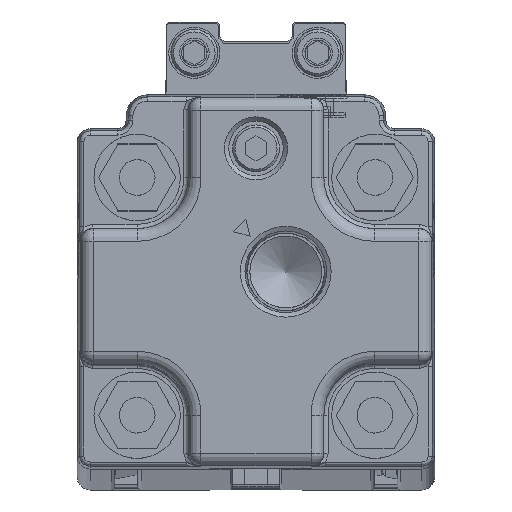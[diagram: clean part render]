
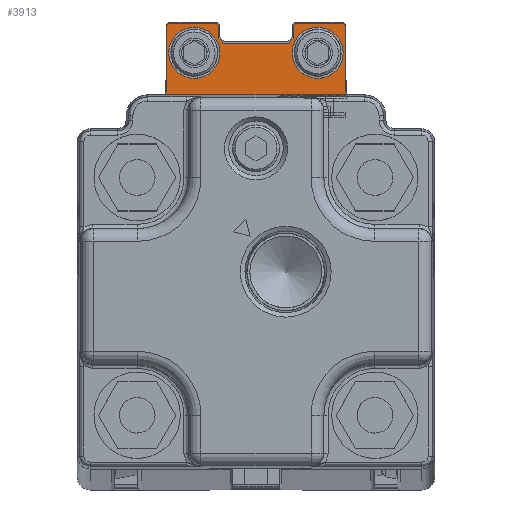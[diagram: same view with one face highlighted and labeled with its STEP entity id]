
A CAD part, top view. The second image highlights one B-rep face of the part: STEP entity #3913.
In plain terms, the highlighted planar face has unit normal (0, 0, 1).
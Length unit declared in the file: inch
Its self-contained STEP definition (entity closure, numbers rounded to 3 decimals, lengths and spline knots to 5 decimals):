
#234 = DIRECTION ( 'NONE',  ( 0.707, 0.707, 0. ) ) ;
#361 = ORIENTED_EDGE ( 'NONE', *, *, #2216, .T. ) ;
#495 = LINE ( 'NONE', #2139, #12249 ) ;
#590 = CARTESIAN_POINT ( 'NONE',  ( -0.17126, 1.10709, 2.22441 ) ) ;
#708 = ORIENTED_EDGE ( 'NONE', *, *, #12825, .F. ) ;
#823 = CARTESIAN_POINT ( 'NONE',  ( 0.43307, 1.11693, 2.22441 ) ) ;
#904 = VECTOR ( 'NONE', #17777, 39.37008 ) ;
#1033 = ORIENTED_EDGE ( 'NONE', *, *, #18305, .T. ) ;
#1280 = EDGE_CURVE ( 'NONE', #16223, #13581, #9446, .T. ) ;
#1484 = VERTEX_POINT ( 'NONE', #16175 ) ;
#1485 = CARTESIAN_POINT ( 'NONE',  ( 0.41339, 0.88071, 2.22441 ) ) ;
#1690 = EDGE_CURVE ( 'NONE', #24234, #10453, #11562, .T. ) ;
#1952 = ORIENTED_EDGE ( 'NONE', *, *, #2222, .F. ) ;
#2015 = DIRECTION ( 'NONE',  ( 0., 0., 1. ) ) ;
#2050 = ORIENTED_EDGE ( 'NONE', *, *, #15190, .T. ) ;
#2139 = CARTESIAN_POINT ( 'NONE',  ( 0.17126, 1.04409, 2.22441 ) ) ;
#2216 = EDGE_CURVE ( 'NONE', #12425, #13581, #5955, .T. ) ;
#2222 = EDGE_CURVE ( 'NONE', #7334, #6017, #495, .T. ) ;
#2424 = CARTESIAN_POINT ( 'NONE',  ( -0.41999, 0.70853, 2.22441 ) ) ;
#2541 = CARTESIAN_POINT ( 'NONE',  ( 0.41339, 1.10709, 2.22441 ) ) ;
#2727 = CARTESIAN_POINT ( 'NONE',  ( -0.40354, 1.11693, 2.22441 ) ) ;
#3183 = CARTESIAN_POINT ( 'NONE',  ( 0.43307, 0.70853, 2.22441 ) ) ;
#3516 = LINE ( 'NONE', #9489, #11490 ) ;
#3913 = ADVANCED_FACE ( 'NONE', ( #13079, #9265, #11170 ), #14763, .F. ) ;
#4042 = VERTEX_POINT ( 'NONE', #25047 ) ;
#4348 = AXIS2_PLACEMENT_3D ( 'NONE', #17380, #5833, #25166 ) ;
#4496 = VECTOR ( 'NONE', #11676, 39.37008 ) ;
#4628 = EDGE_CURVE ( 'NONE', #7951, #13893, #6526, .T. ) ;
#4873 = DIRECTION ( 'NONE',  ( -0.707, 0.707, 0. ) ) ;
#5736 = VECTOR ( 'NONE', #12347, 39.37008 ) ;
#5833 = DIRECTION ( 'NONE',  ( 0., 0., 1. ) ) ;
#5865 = DIRECTION ( 'NONE',  ( 0., -1., 0. ) ) ;
#5953 = ORIENTED_EDGE ( 'NONE', *, *, #7964, .T. ) ;
#5955 = LINE ( 'NONE', #19547, #904 ) ;
#6017 = VERTEX_POINT ( 'NONE', #16471 ) ;
#6227 = DIRECTION ( 'NONE',  ( -0.707, 0.707, 0. ) ) ;
#6507 = CARTESIAN_POINT ( 'NONE',  ( -0.41874, 0.7412, 2.22441 ) ) ;
#6526 = LINE ( 'NONE', #8688, #9043 ) ;
#6669 = DIRECTION ( 'NONE',  ( -1., 0., 0. ) ) ;
#7080 = DIRECTION ( 'NONE',  ( -0.038, 0.999, 0. ) ) ;
#7098 = DIRECTION ( 'NONE',  ( 1., 0., 0. ) ) ;
#7316 = EDGE_CURVE ( 'NONE', #4042, #16943, #24601, .T. ) ;
#7334 = VERTEX_POINT ( 'NONE', #7401 ) ;
#7401 = CARTESIAN_POINT ( 'NONE',  ( 0.15157, 1.02441, 2.22441 ) ) ;
#7777 = AXIS2_PLACEMENT_3D ( 'NONE', #3183, #19045, #12834 ) ;
#7951 = VERTEX_POINT ( 'NONE', #2541 ) ;
#7964 = EDGE_CURVE ( 'NONE', #4042, #9753, #8848, .T. ) ;
#8314 = ORIENTED_EDGE ( 'NONE', *, *, #10307, .F. ) ;
#8331 = ORIENTED_EDGE ( 'NONE', *, *, #19235, .F. ) ;
#8378 = LINE ( 'NONE', #23534, #14376 ) ;
#8688 = CARTESIAN_POINT ( 'NONE',  ( 0.40354, 1.11693, 2.22441 ) ) ;
#8848 = LINE ( 'NONE', #12307, #10958 ) ;
#8940 = DIRECTION ( 'NONE',  ( -1., 0., 0. ) ) ;
#9043 = VECTOR ( 'NONE', #4873, 39.37008 ) ;
#9046 = VECTOR ( 'NONE', #22348, 39.37008 ) ;
#9150 = ORIENTED_EDGE ( 'NONE', *, *, #1690, .F. ) ;
#9236 = EDGE_CURVE ( 'NONE', #13893, #11903, #14232, .T. ) ;
#9265 = FACE_BOUND ( 'NONE', #17329, .T. ) ;
#9446 = LINE ( 'NONE', #19101, #12571 ) ;
#9489 = CARTESIAN_POINT ( 'NONE',  ( -0.15157, 1.02441, 2.22441 ) ) ;
#9728 = CARTESIAN_POINT ( 'NONE',  ( 0.1811, 1.11693, 2.22441 ) ) ;
#9753 = VERTEX_POINT ( 'NONE', #1485 ) ;
#9876 = ORIENTED_EDGE ( 'NONE', *, *, #7316, .F. ) ;
#9951 = CARTESIAN_POINT ( 'NONE',  ( 0.40354, 1.11693, 2.22441 ) ) ;
#9962 = CARTESIAN_POINT ( 'NONE',  ( 0.1811, 1.11693, 2.22441 ) ) ;
#10020 = CARTESIAN_POINT ( 'NONE',  ( 0.28543, 0.97913, 2.22441 ) ) ;
#10307 = EDGE_CURVE ( 'NONE', #21950, #21950, #11474, .T. ) ;
#10333 = EDGE_LOOP ( 'NONE', ( #20914, #13153, #18415, #1033, #8331, #1952, #20221, #13612, #9150, #20227, #2050, #361, #17523, #708, #9876, #5953 ) ) ;
#10453 = VERTEX_POINT ( 'NONE', #18281 ) ;
#10613 = EDGE_CURVE ( 'NONE', #11900, #7334, #3516, .T. ) ;
#10812 = CARTESIAN_POINT ( 'NONE',  ( -0.16732, 0.97913, 2.22441 ) ) ;
#10935 = VERTEX_POINT ( 'NONE', #10812 ) ;
#10958 = VECTOR ( 'NONE', #7080, 39.37008 ) ;
#11107 = ORIENTED_EDGE ( 'NONE', *, *, #23808, .F. ) ;
#11170 = FACE_OUTER_BOUND ( 'NONE', #10333, .T. ) ;
#11474 = CIRCLE ( 'NONE', #13944, 0.11811 ) ;
#11490 = VECTOR ( 'NONE', #7098, 39.37008 ) ;
#11562 = LINE ( 'NONE', #15390, #23980 ) ;
#11676 = DIRECTION ( 'NONE',  ( 0., 1., 0. ) ) ;
#11900 = VERTEX_POINT ( 'NONE', #19398 ) ;
#11903 = VERTEX_POINT ( 'NONE', #9728 ) ;
#12119 = CARTESIAN_POINT ( 'NONE',  ( -0.41339, 0.88071, 2.22441 ) ) ;
#12249 = VECTOR ( 'NONE', #234, 39.37008 ) ;
#12307 = CARTESIAN_POINT ( 'NONE',  ( 0.42001, 0.70803, 2.22441 ) ) ;
#12347 = DIRECTION ( 'NONE',  ( 0.038, 0.999, 0. ) ) ;
#12400 = VERTEX_POINT ( 'NONE', #24362 ) ;
#12425 = VERTEX_POINT ( 'NONE', #2727 ) ;
#12571 = VECTOR ( 'NONE', #21020, 39.37008 ) ;
#12625 = LINE ( 'NONE', #823, #14409 ) ;
#12726 = CARTESIAN_POINT ( 'NONE',  ( -0.15157, 1.02441, 2.22441 ) ) ;
#12790 = CARTESIAN_POINT ( 'NONE',  ( 0.17126, 1.11693, 2.22441 ) ) ;
#12825 = EDGE_CURVE ( 'NONE', #16943, #16223, #14518, .T. ) ;
#12834 = DIRECTION ( 'NONE',  ( -1., 0., 0. ) ) ;
#13079 = FACE_BOUND ( 'NONE', #19708, .T. ) ;
#13153 = ORIENTED_EDGE ( 'NONE', *, *, #4628, .T. ) ;
#13581 = VERTEX_POINT ( 'NONE', #15860 ) ;
#13612 = ORIENTED_EDGE ( 'NONE', *, *, #22127, .F. ) ;
#13893 = VERTEX_POINT ( 'NONE', #9951 ) ;
#13944 = AXIS2_PLACEMENT_3D ( 'NONE', #10020, #2015, #23651 ) ;
#14232 = LINE ( 'NONE', #20089, #18412 ) ;
#14376 = VECTOR ( 'NONE', #6227, 39.37008 ) ;
#14409 = VECTOR ( 'NONE', #6669, 39.37008 ) ;
#14518 = LINE ( 'NONE', #6507, #5736 ) ;
#14582 = LINE ( 'NONE', #12790, #9046 ) ;
#14763 = PLANE ( 'NONE',  #7777 ) ;
#15014 = DIRECTION ( 'NONE',  ( 0.707, -0.707, 0. ) ) ;
#15190 = EDGE_CURVE ( 'NONE', #12400, #12425, #12625, .T. ) ;
#15288 = CARTESIAN_POINT ( 'NONE',  ( 0.43307, 0.70853, 2.22441 ) ) ;
#15390 = CARTESIAN_POINT ( 'NONE',  ( -0.17126, 1.11693, 2.22441 ) ) ;
#15860 = CARTESIAN_POINT ( 'NONE',  ( -0.41339, 1.10709, 2.22441 ) ) ;
#16175 = CARTESIAN_POINT ( 'NONE',  ( 0.17126, 1.10709, 2.22441 ) ) ;
#16223 = VERTEX_POINT ( 'NONE', #12119 ) ;
#16349 = CARTESIAN_POINT ( 'NONE',  ( 0.40354, 0.97913, 2.22441 ) ) ;
#16471 = CARTESIAN_POINT ( 'NONE',  ( 0.17126, 1.04409, 2.22441 ) ) ;
#16943 = VERTEX_POINT ( 'NONE', #2424 ) ;
#17329 = EDGE_LOOP ( 'NONE', ( #11107 ) ) ;
#17380 = CARTESIAN_POINT ( 'NONE',  ( -0.28543, 0.97913, 2.22441 ) ) ;
#17523 = ORIENTED_EDGE ( 'NONE', *, *, #1280, .F. ) ;
#17677 = VECTOR ( 'NONE', #15014, 39.37008 ) ;
#17777 = DIRECTION ( 'NONE',  ( -0.707, -0.707, 0. ) ) ;
#18281 = CARTESIAN_POINT ( 'NONE',  ( -0.17126, 1.04409, 2.22441 ) ) ;
#18305 = EDGE_CURVE ( 'NONE', #11903, #1484, #19762, .T. ) ;
#18412 = VECTOR ( 'NONE', #22006, 39.37008 ) ;
#18415 = ORIENTED_EDGE ( 'NONE', *, *, #9236, .T. ) ;
#18680 = EDGE_CURVE ( 'NONE', #24234, #12400, #8378, .T. ) ;
#19045 = DIRECTION ( 'NONE',  ( 0., 0., -1. ) ) ;
#19101 = CARTESIAN_POINT ( 'NONE',  ( -0.41339, 0.70853, 2.22441 ) ) ;
#19214 = VECTOR ( 'NONE', #23468, 39.37008 ) ;
#19235 = EDGE_CURVE ( 'NONE', #6017, #1484, #14582, .T. ) ;
#19398 = CARTESIAN_POINT ( 'NONE',  ( -0.15157, 1.02441, 2.22441 ) ) ;
#19547 = CARTESIAN_POINT ( 'NONE',  ( -0.41339, 1.10709, 2.22441 ) ) ;
#19708 = EDGE_LOOP ( 'NONE', ( #8314 ) ) ;
#19762 = LINE ( 'NONE', #9962, #19214 ) ;
#20089 = CARTESIAN_POINT ( 'NONE',  ( 0.43307, 1.11693, 2.22441 ) ) ;
#20221 = ORIENTED_EDGE ( 'NONE', *, *, #10613, .F. ) ;
#20227 = ORIENTED_EDGE ( 'NONE', *, *, #18680, .T. ) ;
#20390 = EDGE_CURVE ( 'NONE', #9753, #7951, #21367, .T. ) ;
#20914 = ORIENTED_EDGE ( 'NONE', *, *, #20390, .T. ) ;
#20977 = LINE ( 'NONE', #12726, #17677 ) ;
#21020 = DIRECTION ( 'NONE',  ( 0., 1., 0. ) ) ;
#21367 = LINE ( 'NONE', #23033, #4496 ) ;
#21950 = VERTEX_POINT ( 'NONE', #16349 ) ;
#22006 = DIRECTION ( 'NONE',  ( -1., 0., 0. ) ) ;
#22127 = EDGE_CURVE ( 'NONE', #10453, #11900, #20977, .T. ) ;
#22348 = DIRECTION ( 'NONE',  ( 0., 1., 0. ) ) ;
#23033 = CARTESIAN_POINT ( 'NONE',  ( 0.41339, 0.70853, 2.22441 ) ) ;
#23039 = CIRCLE ( 'NONE', #4348, 0.11811 ) ;
#23468 = DIRECTION ( 'NONE',  ( -0.707, -0.707, 0. ) ) ;
#23534 = CARTESIAN_POINT ( 'NONE',  ( -0.17126, 1.10709, 2.22441 ) ) ;
#23651 = DIRECTION ( 'NONE',  ( 1., 0., 0. ) ) ;
#23808 = EDGE_CURVE ( 'NONE', #10935, #10935, #23039, .T. ) ;
#23965 = VECTOR ( 'NONE', #8940, 39.37008 ) ;
#23980 = VECTOR ( 'NONE', #5865, 39.37008 ) ;
#24234 = VERTEX_POINT ( 'NONE', #590 ) ;
#24362 = CARTESIAN_POINT ( 'NONE',  ( -0.1811, 1.11693, 2.22441 ) ) ;
#24601 = LINE ( 'NONE', #15288, #23965 ) ;
#25047 = CARTESIAN_POINT ( 'NONE',  ( 0.41999, 0.70853, 2.22441 ) ) ;
#25166 = DIRECTION ( 'NONE',  ( 1., 0., 0. ) ) ;
